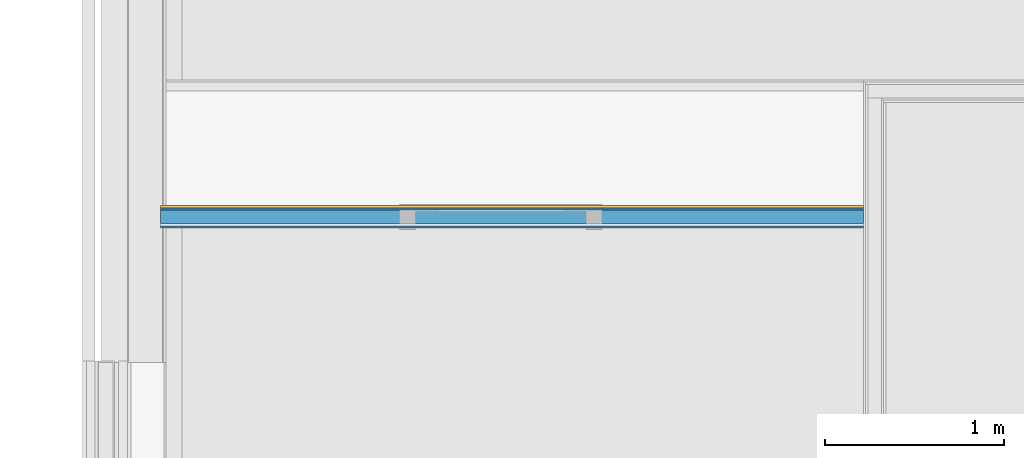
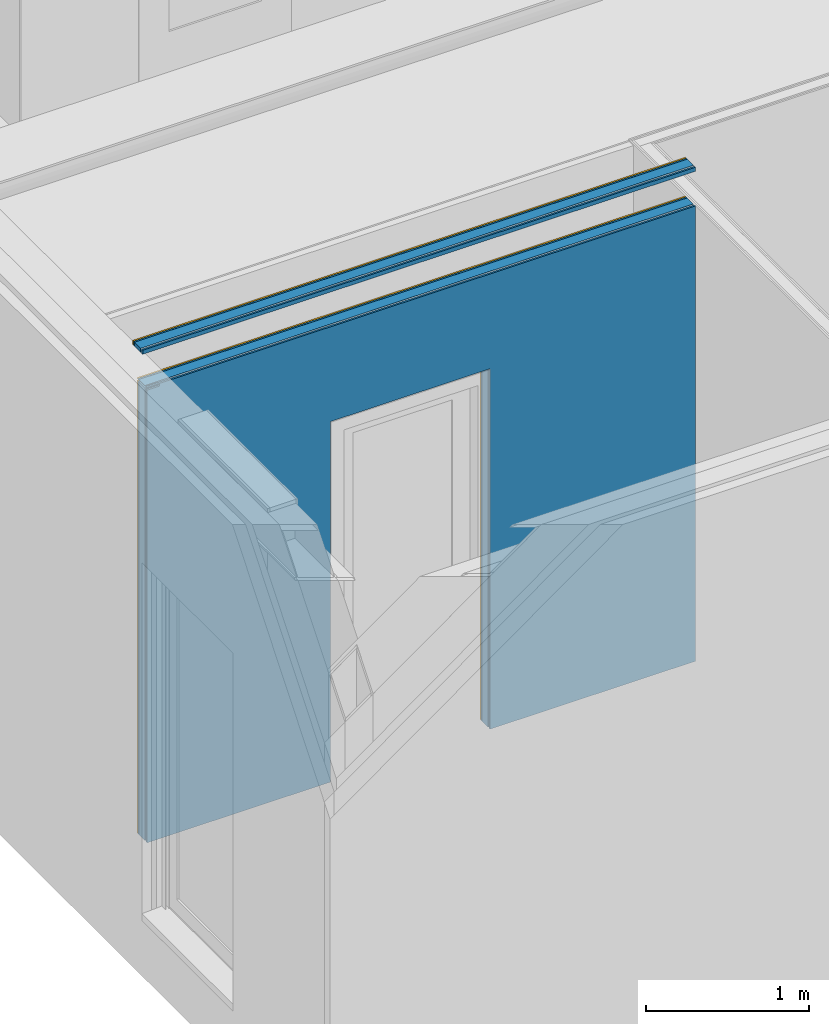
# One storey, part 37 of 165: 3 building element parts, 1 covering, 1 opening, 1 element without a shape of its own.
"""IFC2X3 building model written with IfcOpenShell, lengths in millimetres."""

from ifc_helpers import new_model, entity, si_unit, converted_unit, derived_unit, money_unit, direction, frame, origin_with_axes, place, context, subcontext, project, spatial, faceted_brep, material, type_object, element, aggregate, save


model = new_model("IFC2X3")

# Units and contexts
model_context = context("Model", 3, precision=0.01, world=origin_with_axes(), true_north=direction((0.0, 1.0)))
body_context = subcontext(model_context, "Body", "Model", "MODEL_VIEW")
ifc_project = project(units=[si_unit("LENGTHUNIT", "METRE", prefix="MILLI"), si_unit("AREAUNIT", "SQUARE_METRE"), si_unit("VOLUMEUNIT", "CUBIC_METRE"), converted_unit("PLANEANGLEUNIT", "DEGREE", entity("IfcPlaneAngleMeasure", 0.0174532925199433), si_unit("PLANEANGLEUNIT", "RADIAN"), dimensions=[0, 0, 0, 0, 0, 0, 0]), money_unit("EUR"), converted_unit("TIMEUNIT", "Year", entity("IfcTimeMeasure", 31556926.0), si_unit("TIMEUNIT", "SECOND"), dimensions=[0, 0, 1, 0, 0, 0, 0]), si_unit("MASSUNIT", "GRAM", prefix="KILO"), si_unit("THERMODYNAMICTEMPERATUREUNIT", "DEGREE_CELSIUS"), si_unit("LUMINOUSINTENSITYUNIT", "LUMEN"), si_unit("ENERGYUNIT", "JOULE", prefix="MEGA"), derived_unit("THERMALCONDUCTANCEUNIT", [(si_unit("POWERUNIT", "WATT"), 1), (si_unit("LENGTHUNIT", "METRE"), -1), (si_unit("THERMODYNAMICTEMPERATUREUNIT", "KELVIN"), -1)]), derived_unit("SPECIFICHEATCAPACITYUNIT", [(si_unit("ENERGYUNIT", "JOULE"), 1), (si_unit("MASSUNIT", "GRAM", prefix="KILO"), -1), (si_unit("THERMODYNAMICTEMPERATUREUNIT", "KELVIN"), -1)]), derived_unit("MASSDENSITYUNIT", [(si_unit("MASSUNIT", "GRAM", prefix="KILO"), 1), (si_unit("VOLUMEUNIT", "CUBIC_METRE"), -1)])], contexts=[model_context])

# Site, building, storey
site_placement = place(None, origin_with_axes())
site = spatial("IfcSite", under=ifc_project, at=site_placement, Name="Site", CompositionType="ELEMENT")
building_placement = place(site_placement, origin_with_axes())
building = spatial("IfcBuilding", under=site, at=building_placement, Name="Naam gebouw", CompositionType="ELEMENT")
storey_placement = place(building_placement, origin_with_axes())
storey = spatial("IfcBuildingStorey", under=building, at=storey_placement, Name="Begane grond", CompositionType="ELEMENT", Elevation=0.0)

# Proxy, opening, covering, building element parts
building_element_proxy_type = type_object("IfcBuildingElementProxyType", Name="22 Metal stud 125 oregon pine 125", PredefinedType="NOTDEFINED")
proxy_placement = place(storey_placement, frame((4099.999999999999, 2924.995712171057, -100.0), z_axis=(0.0, 0.0, 1.0), x_axis=(-1.0, 0.0, 0.0)))
proxy = element("IfcBuildingElementProxy", 1, at=proxy_placement, inside=storey, type_object=building_element_proxy_type, Name="_Wand-x")
opening_placement = place(proxy_placement, frame((2021.00003562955, 0.0, 100.0), z_axis=(0.0, 0.0, 1.0), x_axis=(1.0, 0.0, 0.0)))
element("IfcOpeningElement", 2, at=opening_placement, cuts=proxy, Name="_02.06", context=body_context, shape_type="Brep", body=[
    faceted_brep([(565.0, 126.0000000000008, 2600.0), (565.0, 126.0000000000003, -100.0000000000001), (-565.0, 126.0000000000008, -100.0000000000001), (-565.0, 126.0000000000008, 2600.0), (565.0, -1.000000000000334, 2600.0), (565.0, -1.000000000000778, -100.0000000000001), (-565.0, -1.000000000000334, -100.0000000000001), (-565.0, -1.000000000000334, 2600.0)], [[[0, 1, 2, 3]], [[4, 5, 1, 0]], [[5, 6, 2, 1]], [[6, 7, 3, 2]], [[7, 4, 0, 3]], [[6, 5, 4, 7]]]),
])
ifc_material_1 = material(Name="Hout - Multiplex Oregon Pine")
covering_placement = place(proxy_placement, origin_with_axes())
covering = element("IfcCovering", 3, at=covering_placement, material=ifc_material_1, Name="Hout - Multiplex Oregon Pine", PredefinedType="NOTDEFINED", context=body_context, shape_type="Brep", body=[
    faceted_brep([(2586.00003562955, 0.0, 2700.0), (2586.00003562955, 0.0, 0.0), (3885.999999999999, 0.0, 0.0), (3885.999999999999, 0.0, 3390.0), (3795.999995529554, 0.0, 3390.0), (3795.999995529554, 0.0, 3405.0), (3885.999999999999, 0.0, 3405.0), (3885.999999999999, 0.0, 3410.0), (0.0, 0.0, 3410.0), (0.0, 0.0, 0.0), (1456.00003562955, 0.0, 0.0), (1456.00003562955, 0.0, 2700.0), (2586.00003562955, 12.50000134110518, 2700.0), (2586.00003562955, 12.49999999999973, 0.0), (3885.999999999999, 12.49999999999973, 0.0), (3885.999999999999, 12.50000123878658, 3390.0), (3795.999995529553, 12.50000134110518, 3390.0), (3795.999995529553, 12.50000134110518, 3405.0), (3885.999999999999, 12.50000124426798, 3405.0), (3885.999999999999, 12.50000124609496, 3410.0), (0.0, 12.50000134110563, 3410.0), (0.0, 12.50000000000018, 0.0), (1456.00003562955, 12.50000000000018, 0.0), (1456.00003562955, 12.50000134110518, 2700.0)], [[[0, 1, 2, 3, 4, 5, 6, 7, 8, 9, 10, 11]], [[1, 0, 12, 13]], [[1, 13, 14, 2]], [[3, 2, 14, 15]], [[3, 15, 16, 4]], [[4, 16, 17, 5]], [[5, 17, 18, 6]], [[18, 19, 7, 6]], [[20, 8, 7, 19]], [[8, 20, 21, 9]], [[22, 10, 9, 21]], [[11, 10, 22, 23]], [[0, 11, 23, 12]], [[23, 22, 21, 20, 19, 18, 17, 16, 15, 14, 13, 12]]]),
    faceted_brep([(0.0, 12.50000134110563, 3700.0), (0.0, 12.50000134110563, 3670.0), (0.0, 0.0, 3670.0), (0.0, 0.0, 3700.0), (3915.99998320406, 12.50000134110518, 3670.0), (3915.99998320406, 12.50000013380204, 3700.0), (3915.99998320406, 0.0, 3670.0), (3915.99998320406, 0.0, 3700.0)], [[[0, 1, 2, 3]], [[4, 1, 0, 5]], [[6, 2, 1, 4]], [[3, 2, 6, 7]], [[0, 3, 7, 5]], [[6, 4, 5, 7]]]),
])
ifc_material_2 = material(Name="Gipsplaat")
building_element_part_1_placement = place(proxy_placement, origin_with_axes())
building_element_part_1 = element("IfcBuildingElementPart", 4, at=building_element_part_1_placement, material=ifc_material_2, Name="Gipsplaat", context=body_context, shape_type="Brep", body=[
    faceted_brep([(2586.00003562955, 112.4999999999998, 2700.0), (2586.00003562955, 112.4999999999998, 0.0), (3885.999999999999, 112.4999999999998, 0.0), (3885.999999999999, 112.4999999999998, 3390.0), (3795.999995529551, 112.4999999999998, 3390.0), (3795.999995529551, 112.4999999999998, 3405.0), (3885.999999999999, 112.4999999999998, 3405.0), (3885.999999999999, 112.4999999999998, 3410.0), (0.0, 112.5000000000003, 3410.0), (0.0, 112.4999999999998, 0.0), (1456.00003562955, 112.4999999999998, 0.0), (1456.00003562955, 112.4999999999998, 2700.0), (2586.00003562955, 125.0000004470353, 2700.0), (2586.00003562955, 124.9999999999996, 0.0), (3885.999999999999, 124.9999999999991, 0.0), (3885.999999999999, 125.0000004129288, 3390.0), (3795.999995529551, 125.0000004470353, 3390.0), (3795.999995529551, 125.0000004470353, 3405.0), (3885.999999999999, 125.0000004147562, 3405.0), (3885.999999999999, 125.0000004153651, 3410.0), (0.0, 125.0000004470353, 3410.0), (0.0, 125.0, 0.0), (1456.00003562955, 124.9999999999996, 0.0), (1456.00003562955, 125.0000004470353, 2700.0)], [[[0, 1, 2, 3, 4, 5, 6, 7, 8, 9, 10, 11]], [[1, 0, 12, 13]], [[1, 13, 14, 2]], [[3, 2, 14, 15]], [[3, 15, 16, 4]], [[4, 16, 17, 5]], [[5, 17, 18, 6]], [[18, 19, 7, 6]], [[20, 8, 7, 19]], [[8, 20, 21, 9]], [[22, 10, 9, 21]], [[11, 10, 22, 23]], [[0, 11, 23, 12]], [[23, 22, 21, 20, 19, 18, 17, 16, 15, 14, 13, 12]]]),
    faceted_brep([(0.0, 125.0000004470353, 3700.0), (0.0, 125.0000004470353, 3670.0), (0.0, 112.5000000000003, 3670.0), (0.0, 112.5000000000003, 3700.0), (3915.99998320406, 125.0000004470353, 3670.0), (3915.99998320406, 125.0000000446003, 3700.0), (3915.99998320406, 112.4999999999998, 3670.0), (3915.99998320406, 112.4999999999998, 3700.0)], [[[0, 1, 2, 3]], [[4, 1, 0, 5]], [[6, 2, 1, 4]], [[3, 2, 6, 7]], [[0, 3, 7, 5]], [[6, 4, 5, 7]]]),
])
ifc_material_3 = material(Name="ALG - LICHTE SCHEIDINGSWAND")
building_element_part_2_placement = place(proxy_placement, origin_with_axes())
building_element_part_2 = element("IfcBuildingElementPart", 5, at=building_element_part_2_placement, material=ifc_material_3, Name="ALG - LICHTE SCHEIDINGSWAND", context=body_context, shape_type="Brep", body=[
    faceted_brep([(2586.00003562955, 24.99999999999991, 2700.0), (2586.00003562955, 24.99999999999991, 0.0), (3885.999999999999, 24.99999999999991, 0.0), (3885.999999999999, 24.99999999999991, 3390.0), (3795.999995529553, 25.00000000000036, 3390.0), (3795.999995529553, 25.00000000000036, 3405.0), (3885.999999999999, 24.99999999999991, 3405.0), (3885.999999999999, 24.99999999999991, 3410.0), (0.0, 25.00000000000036, 3410.0), (0.0, 24.99999999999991, 0.0), (1456.00003562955, 24.99999999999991, 0.0), (1456.00003562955, 24.99999999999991, 2700.0), (2586.00003562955, 100.0000000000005, 2700.0), (2586.00003562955, 99.99999999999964, 0.0), (3885.999999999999, 99.99999999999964, 0.0), (3885.999999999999, 100.0000000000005, 3390.0), (3795.999995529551, 100.0000000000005, 3390.0), (3795.999995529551, 100.0000000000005, 3405.0), (3885.999999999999, 100.0000000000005, 3405.0), (3885.999999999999, 100.0000000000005, 3410.0), (0.0, 100.0000000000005, 3410.0), (0.0, 100.0000000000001, 0.0), (1456.00003562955, 100.0000000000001, 0.0), (1456.00003562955, 100.0000000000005, 2700.0)], [[[0, 1, 2, 3, 4, 5, 6, 7, 8, 9, 10, 11]], [[1, 0, 12, 13]], [[1, 13, 14, 2]], [[3, 2, 14, 15]], [[3, 15, 16, 4]], [[4, 16, 17, 5]], [[5, 17, 18, 6]], [[18, 19, 7, 6]], [[20, 8, 7, 19]], [[8, 20, 21, 9]], [[22, 10, 9, 21]], [[11, 10, 22, 23]], [[0, 11, 23, 12]], [[23, 22, 21, 20, 19, 18, 17, 16, 15, 14, 13, 12]]]),
    faceted_brep([(0.0, 100.0000000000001, 3700.0), (0.0, 100.0000000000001, 3670.0), (0.0, 25.00000000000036, 3670.0), (0.0, 25.00000000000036, 3700.0), (3915.99998320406, 100.0000000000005, 3670.0), (3915.99998320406, 100.0000000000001, 3700.0), (3915.99998320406, 24.99999999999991, 3670.0), (3915.99998320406, 24.99999999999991, 3700.0)], [[[0, 1, 2, 3]], [[4, 1, 0, 5]], [[6, 2, 1, 4]], [[3, 2, 6, 7]], [[0, 3, 7, 5]], [[6, 4, 5, 7]]]),
])
building_element_part_3_placement = place(proxy_placement, origin_with_axes())
building_element_part_3 = element("IfcBuildingElementPart", 6, at=building_element_part_3_placement, material=ifc_material_2, Name="Gipsplaat", context=body_context, shape_type="Brep", body=[
    faceted_brep([(2586.00003562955, 12.50000123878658, 2700.0), (2586.00003562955, 12.49999999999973, 0.0), (3885.999999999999, 12.49999999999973, 0.0), (3885.999999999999, 12.50000123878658, 3390.0), (3795.999995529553, 12.50000124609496, 3390.0), (3795.999995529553, 12.50000124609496, 3405.0), (3885.999999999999, 12.50000124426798, 3405.0), (3885.999999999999, 12.50000124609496, 3410.0), (0.0, 12.50000134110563, 3410.0), (0.0, 12.50000000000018, 0.0), (1456.00003562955, 12.50000000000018, 0.0), (1456.00003562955, 12.50000123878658, 2700.0), (2586.00003562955, 25.00000000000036, 2700.0), (2586.00003562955, 25.00000000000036, 0.0), (3885.999999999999, 25.00000000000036, 0.0), (3885.999999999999, 24.99999999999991, 3390.0), (3795.999995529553, 25.00000000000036, 3390.0), (3795.999995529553, 25.00000000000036, 3405.0), (3885.999999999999, 24.99999999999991, 3405.0), (3885.999999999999, 24.99999999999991, 3410.0), (0.0, 25.00000000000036, 3410.0), (0.0, 24.99999999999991, 0.0), (1456.00003562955, 24.99999999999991, 0.0), (1456.00003562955, 25.00000000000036, 2700.0)], [[[0, 1, 2, 3, 4, 5, 6, 7, 8, 9, 10, 11]], [[1, 0, 12, 13]], [[1, 13, 14, 2]], [[3, 2, 14, 15]], [[3, 15, 16, 4]], [[4, 16, 17, 5]], [[5, 17, 18, 6]], [[18, 19, 7, 6]], [[20, 8, 7, 19]], [[8, 20, 21, 9]], [[22, 10, 9, 21]], [[11, 10, 22, 23]], [[0, 11, 23, 12]], [[23, 22, 21, 20, 19, 18, 17, 16, 15, 14, 13, 12]]]),
    faceted_brep([(0.0, 25.00000000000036, 3700.0), (0.0, 25.00000000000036, 3670.0), (0.0, 12.50000134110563, 3670.0), (0.0, 12.50000134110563, 3700.0), (3915.99998320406, 24.99999999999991, 3670.0), (3915.99998320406, 24.99999999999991, 3700.0), (3915.99998320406, 12.50000134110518, 3670.0), (3915.99998320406, 12.50000013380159, 3700.0)], [[[0, 1, 2, 3]], [[4, 1, 0, 5]], [[6, 2, 1, 4]], [[3, 2, 6, 7]], [[0, 3, 7, 5]], [[6, 4, 5, 7]]]),
])
aggregate(proxy, [building_element_part_1, building_element_part_2, building_element_part_3, covering])

save(model, "model.ifc")
